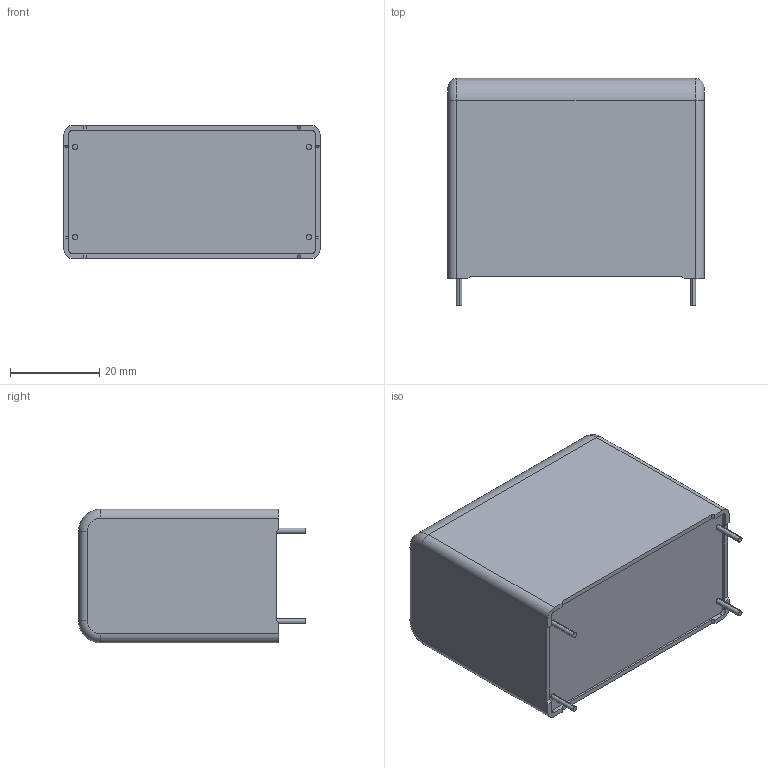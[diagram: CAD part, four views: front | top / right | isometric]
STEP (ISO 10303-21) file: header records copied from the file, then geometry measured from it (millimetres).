
FILE_DESCRIPTION (( 'STEP AP203' ), '1' );
FILE_NAME ('DC_Link_30x45x57.5_4pins20.3.step', '2017-04-03T16:00:07', ( 'work' ), ( 'Hewlett-Packard Company' ), 'SwSTEP 2.0', 'SolidWorks 2017', '' );
FILE_SCHEMA (( 'CONFIG_CONTROL_DESIGN' ));
Length unit declared in the file: millimetre
Products named in the file (1): DC_Link_30x45x57.5_4pins20.3
Bounding box: 57.5 x 51 x 30 mm (x, y, z)
Volume: 75231.4 mm3; surface area: 10988.1 mm2
Topology: 1 solids, 1 shells, 122 faces, 319 edges, 210 vertices
Faces by surface type: plane 82, cylinder 20, bspline 16, torus 4
Entity records: 4492 total; most frequent: CARTESIAN_POINT 1476, ORIENTED_EDGE 638, DIRECTION 545, EDGE_CURVE 319, VECTOR 243, LINE 243, VERTEX_POINT 210, AXIS2_PLACEMENT_3D 151
